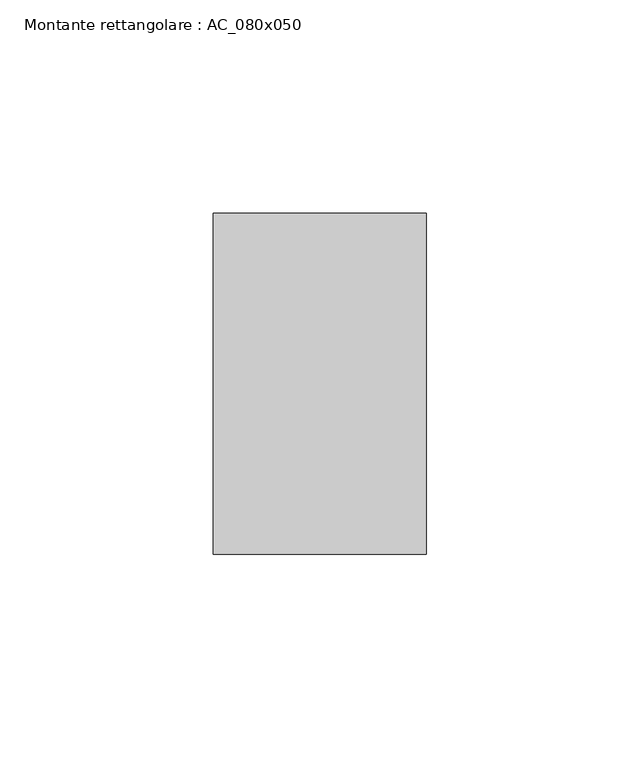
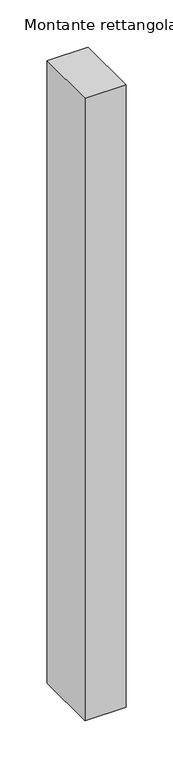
"""IFC4 building model written with IfcOpenShell, lengths in millimetres: member geometry, Montante rettangolare : AC_080x050."""

from ifc_helpers import new_model, si_unit, frame, origin, place, context, project, spatial, polyline, outline, extrude, source, transform, mapped, element, save


def montante_rettangolare_ac_080x050_4a988d0e(model_context):
    return source(origin(), model_context, "Body", "SweptSolid", [
        extrude(outline(polyline([(0.0, 40.0), (0.0, -40.0), (-50.0, -40.0), (-50.0, 40.0), (0.0, 40.0)])), frame((0.0, 0.0, -803.6633741), z_axis=(0.0, 0.0, 1.0), x_axis=(1.0, 0.0, 0.0)), (0.0, 0.0, 1.0), 803.6633741),
    ])


if __name__ == "__main__":
    model = new_model("IFC4")
    model_context = context("Model", 3, world=origin())
    ifc_project = project(units=[si_unit("LENGTHUNIT", "METRE", prefix="MILLI")], contexts=[model_context])
    site = spatial("IfcSite", under=ifc_project)
    building = spatial("IfcBuilding", under=site)
    placement = place(None, origin())
    montante_rettangolare_ac_080x050_shape = montante_rettangolare_ac_080x050_4a988d0e(model_context)
    element("IfcMember", 1, ObjectType="Montante rettangolare : AC_080x050", at=placement, inside=building, context=model_context, shape_type="MappedRepresentation", body=[
        mapped(montante_rettangolare_ac_080x050_shape, transform((0.0, 0.0, 0.0), x_axis=(1.0, 0.0, 0.0), y_axis=(0.0, 1.0, 0.0), z_axis=(0.0, 0.0, 1.0))),
    ])
    save(model, "model.ifc")
